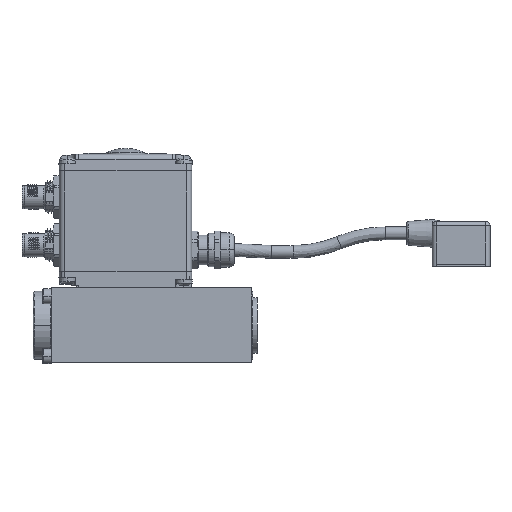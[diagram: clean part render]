
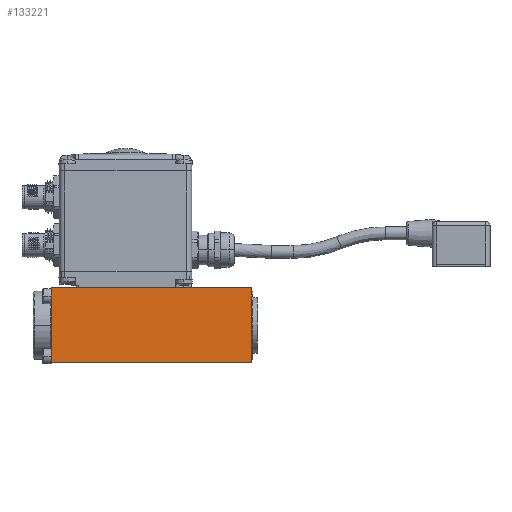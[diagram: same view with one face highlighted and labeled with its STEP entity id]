
A CAD part, top view. The second image highlights one B-rep face of the part: STEP entity #133221.
In plain terms, the highlighted planar face has unit normal (0, 0, 1).
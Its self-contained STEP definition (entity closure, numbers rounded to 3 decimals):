
#2361 = VERTEX_POINT ( 'NONE', #28943 ) ;
#2365 = VERTEX_POINT ( 'NONE', #28945 ) ;
#2393 = VERTEX_POINT ( 'NONE', #28959 ) ;
#2397 = VERTEX_POINT ( 'NONE', #28961 ) ;
#7114 = PLANE ( 'NONE',  #90336 ) ;
#7115 = CARTESIAN_POINT ( 'NONE',  ( 102.5, -17.5, 17.5 ) ) ;
#7116 = DIRECTION ( 'NONE',  ( 0., 0., -1. ) ) ;
#7117 = DIRECTION ( 'NONE',  ( 0., 1., 0. ) ) ;
#17460 = EDGE_LOOP ( 'NONE', ( #112875, #112879, #112878, #112880 ) ) ;
#28943 = CARTESIAN_POINT ( 'NONE',  ( 8.5, 17.5, 17.5 ) ) ;
#28945 = CARTESIAN_POINT ( 'NONE',  ( 102.5, 17.5, 17.5 ) ) ;
#28959 = CARTESIAN_POINT ( 'NONE',  ( 102.5, -17.5, 17.5 ) ) ;
#28961 = CARTESIAN_POINT ( 'NONE',  ( 8.5, -17.5, 17.5 ) ) ;
#39586 = VECTOR ( 'NONE', #42957, 1000. ) ;
#39607 = VECTOR ( 'NONE', #43067, 1000. ) ;
#39610 = VECTOR ( 'NONE', #43083, 1000. ) ;
#39611 = VECTOR ( 'NONE', #43089, 1000. ) ;
#42954 = LINE ( 'NONE', #42956, #39586 ) ;
#42956 = CARTESIAN_POINT ( 'NONE',  ( 102.5, 17.5, 17.5 ) ) ;
#42957 = DIRECTION ( 'NONE',  ( -1., 0., 0. ) ) ;
#43064 = LINE ( 'NONE', #43065, #39607 ) ;
#43065 = CARTESIAN_POINT ( 'NONE',  ( 102.5, -17.5, 17.5 ) ) ;
#43067 = DIRECTION ( 'NONE',  ( 0., -1., 0. ) ) ;
#43080 = LINE ( 'NONE', #43082, #39610 ) ;
#43082 = CARTESIAN_POINT ( 'NONE',  ( 102.5, -17.5, 17.5 ) ) ;
#43083 = DIRECTION ( 'NONE',  ( -1., 0., 0. ) ) ;
#43085 = LINE ( 'NONE', #43087, #39611 ) ;
#43087 = CARTESIAN_POINT ( 'NONE',  ( 8.5, -17.5, 17.5 ) ) ;
#43089 = DIRECTION ( 'NONE',  ( 0., 1., 0. ) ) ;
#90332 = FACE_OUTER_BOUND ( 'NONE', #17460, .T. ) ;
#90336 = AXIS2_PLACEMENT_3D ( 'NONE', #7115, #7116, #7117 ) ;
#103858 = EDGE_CURVE ( 'NONE', #2365, #2361, #42954, .T. ) ;
#103879 = EDGE_CURVE ( 'NONE', #2365, #2393, #43064, .T. ) ;
#103882 = EDGE_CURVE ( 'NONE', #2393, #2397, #43080, .T. ) ;
#103883 = EDGE_CURVE ( 'NONE', #2397, #2361, #43085, .T. ) ;
#112875 = ORIENTED_EDGE ( 'NONE', *, *, #103883, .F. ) ;
#112878 = ORIENTED_EDGE ( 'NONE', *, *, #103879, .F. ) ;
#112879 = ORIENTED_EDGE ( 'NONE', *, *, #103882, .F. ) ;
#112880 = ORIENTED_EDGE ( 'NONE', *, *, #103858, .T. ) ;
#133221 = ADVANCED_FACE ( 'NONE', ( #90332 ), #7114, .F. ) ;
